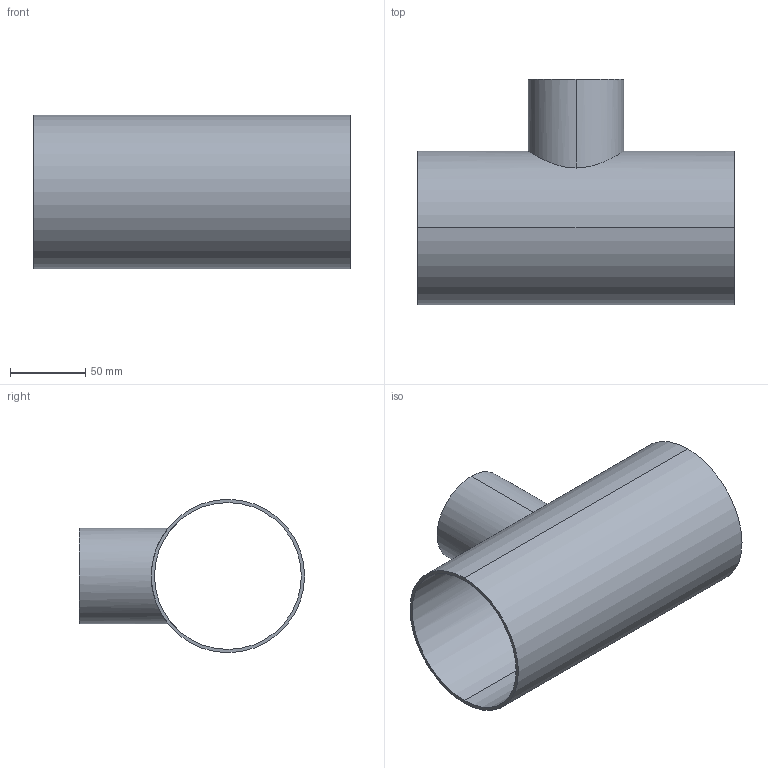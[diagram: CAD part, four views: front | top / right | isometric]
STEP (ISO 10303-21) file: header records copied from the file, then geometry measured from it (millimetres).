
FILE_DESCRIPTION (( 'STEP AP214' ), '1' );
FILE_NAME ('TE7RWWW6L4.0x2.5-...STEP', '2016-05-24T04:34:33', ( 'eran' ), ( '' ), 'SwSTEP 2.0', 'SolidWorks 2016', '' );
FILE_SCHEMA (( 'AUTOMOTIVE_DESIGN' ));
Length unit declared in the file: millimetre
Products named in the file (1): TE7RWWW6L4.0x2.5-..
Bounding box: 209.6 x 149.2 x 101.6 mm (x, y, z)
Volume: 148799.9 mm3; surface area: 147237.1 mm2
Topology: 1 solids, 1 shells, 11 faces, 24 edges, 16 vertices
Faces by surface type: cylinder 8, plane 3
Entity records: 604 total; most frequent: CARTESIAN_POINT 312, DIRECTION 56, ORIENTED_EDGE 48, AXIS2_PLACEMENT_3D 24, EDGE_CURVE 24, VERTEX_POINT 16, EDGE_LOOP 16, CIRCLE 12
